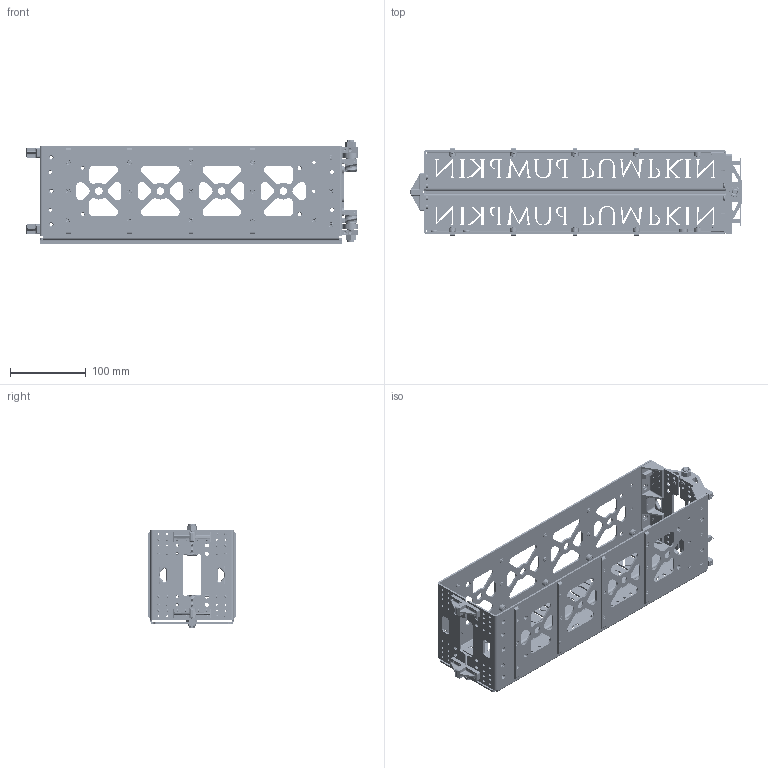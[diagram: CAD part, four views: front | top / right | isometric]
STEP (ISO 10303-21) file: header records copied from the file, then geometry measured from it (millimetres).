
FILE_DESCRIPTION (( 'STEP AP214' ), '1' );
FILE_NAME ('710-02092-A DCSA 12 Panel - Stowed.STEP', '2019-09-03T19:58:54', ( '' ), ( '' ), 'SwSTEP 2.0', 'SolidWorks 2014', '' );
FILE_SCHEMA (( 'AUTOMOTIVE_DESIGN' ));
Length unit declared in the file: inch
Products named in the file (2): 710-02092-A DCSA 12 Panel - Stowed
Bounding box: 439.12 x 116.51 x 136.27 mm (x, y, z)
Volume: 427164.6 mm3; surface area: 368087.9 mm2
Topology: 1 solids, 334 shells, 14638 faces, 34865 edges, 20350 vertices
Faces by surface type: cone 6128, plane 4259, cylinder 3208, bspline 811, torus 192, sphere 40
Entity records: 609067 total; most frequent: CARTESIAN_POINT 279939, ORIENTED_EDGE 69642, DIRECTION 68549, EDGE_CURVE 34821, AXIS2_PLACEMENT_3D 25702, VERTEX_POINT 20350, LINE 17145, VECTOR 17145
